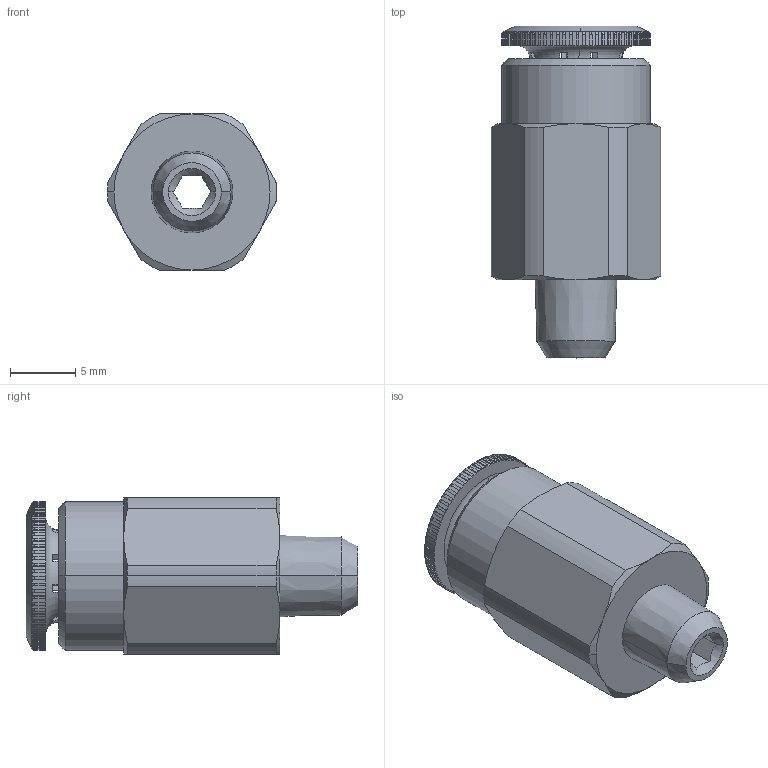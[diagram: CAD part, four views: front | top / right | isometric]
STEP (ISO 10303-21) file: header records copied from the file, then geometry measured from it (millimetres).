
FILE_DESCRIPTION (( 'STEP AP214' ), '1' );
FILE_NAME ('5800000011A.STEP', '2020-02-19T09:26:02', ( 'AIGNEP' ), ( 'Hewlett-Packard Company' ), 'SwSTEP 2.0', 'SolidWorks 2016', '' );
FILE_SCHEMA (( 'AUTOMOTIVE_DESIGN' ));
Length unit declared in the file: millimetre
Products named in the file (1): 5800000011A
Bounding box: 13 x 25.5 x 12 mm (x, y, z)
Volume: 1715.6 mm3; surface area: 1656.3 mm2
Topology: 1 solids, 1 shells, 434 faces, 1298 edges, 855 vertices
Faces by surface type: plane 261, cylinder 112, cone 55, torus 6
Entity records: 19828 total; most frequent: CARTESIAN_POINT 3640, ORIENTED_EDGE 2596, DIRECTION 2171, EDGE_CURVE 1298, VERTEX_POINT 855, AXIS2_PLACEMENT_3D 752, VECTOR 667, LINE 667
